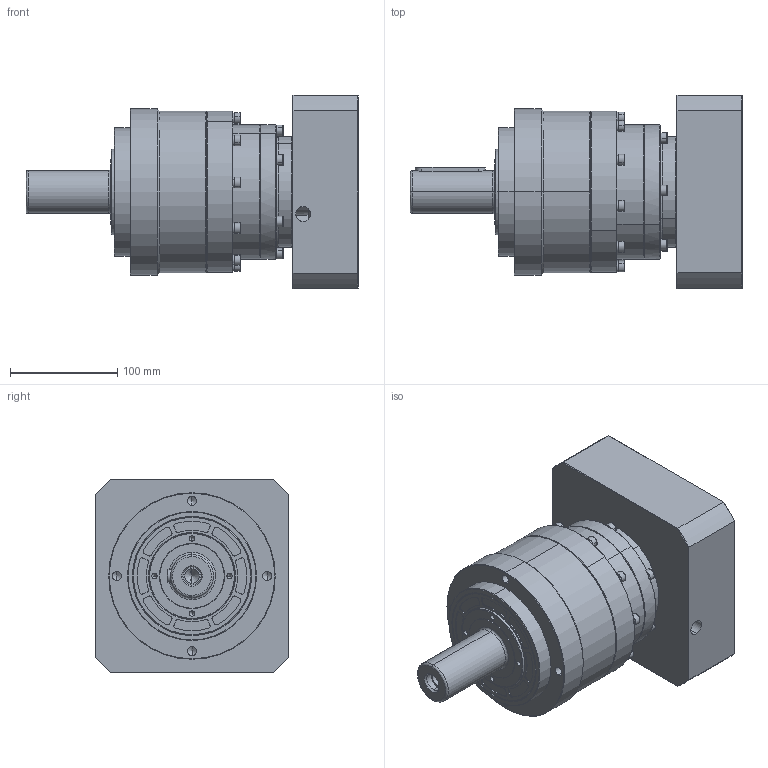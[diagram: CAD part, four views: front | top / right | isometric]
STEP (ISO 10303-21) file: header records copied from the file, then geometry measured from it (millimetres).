
FILE_DESCRIPTION (( 'STEP AP214' ), '1' );
FILE_NAME ('VRL-155-L2-S2-P1 35-114.3-200-M12.STEP', '2023-07-08T08:54:10', ( '微软用户' ), ( '微软中国' ), 'SwSTEP 2.0', 'SolidWorks 2018', '' );
FILE_SCHEMA (( 'AUTOMOTIVE_DESIGN' ));
Length unit declared in the file: millimetre
Products named in the file (12): 一级齿圈加出轴VRL155外形图; hexagon socket head cap screws gb_GB_FASTENER_SCREWS_HSHCS M6X20-N; hexagon socket head cap screws gb_GB_FASTENER_SCREWS_HSHCS M6X25-N; spring lock washers--normal type gb_GB_FASTENER_WASHER_SW 6; 二级齿圈EVT140外形图; 笢潔楊擘 KS115 俋倛芞; VRL-155-L2-S2-P1 35-114.3-200-M12; 萇儂楊擘 PAB115 D114.3-M12-200F180H61; 一级整体太阳轮带夹套外形图 PAB115-D35; hexagon socket head cap screws gb_GB_FASTENER_SCREWS_HSHCS M6X35-N; hexagon socket head cap screws gb_GB_FASTENER_SCREWS_HSHCS M8X25-N; hex socket set screws with flat point gb_GB_FASTENER_SCREWS_HSFP M16X16-N
Assembly tree (51 placements, depth 2):
  VRL-155-L2-S2-P1 35-114.3-200-M12
    一级齿圈加出轴VRL155外形图
    二级齿圈EVT140外形图
    笢潔楊擘 KS115 俋倛芞
    萇儂楊擘 PAB115 D114.3-M12-200F180H61
    spring lock washers--normal type gb_GB_FASTENER_WASHER_SW 6  x22
    hexagon socket head cap screws gb_GB_FASTENER_SCREWS_HSHCS M6X35-N  x10
    hexagon socket head cap screws gb_GB_FASTENER_SCREWS_HSHCS M6X25-N  x6
    hexagon socket head cap screws gb_GB_FASTENER_SCREWS_HSHCS M6X20-N  x6
    hex socket set screws with flat point gb_GB_FASTENER_SCREWS_HSFP M16X16-N
    hexagon socket head cap screws gb_GB_FASTENER_SCREWS_HSHCS M8X25-N
    一级整体太阳轮带夹套外形图 PAB115-D35
Bounding box: 309 x 180 x 180 mm (x, y, z)
Volume: 4052601.6 mm3; surface area: 376023.9 mm2
Topology: 52 solids, 52 shells, 1361 faces, 3293 edges, 2032 vertices
Faces by surface type: plane 591, cylinder 483, cone 235, bspline 52
Entity records: 21730 total; most frequent: CARTESIAN_POINT 4493, DIRECTION 3741, ORIENTED_EDGE 3310, EDGE_CURVE 1655, AXIS2_PLACEMENT_3D 1485, VERTEX_POINT 1059, EDGE_LOOP 788, VECTOR 771
